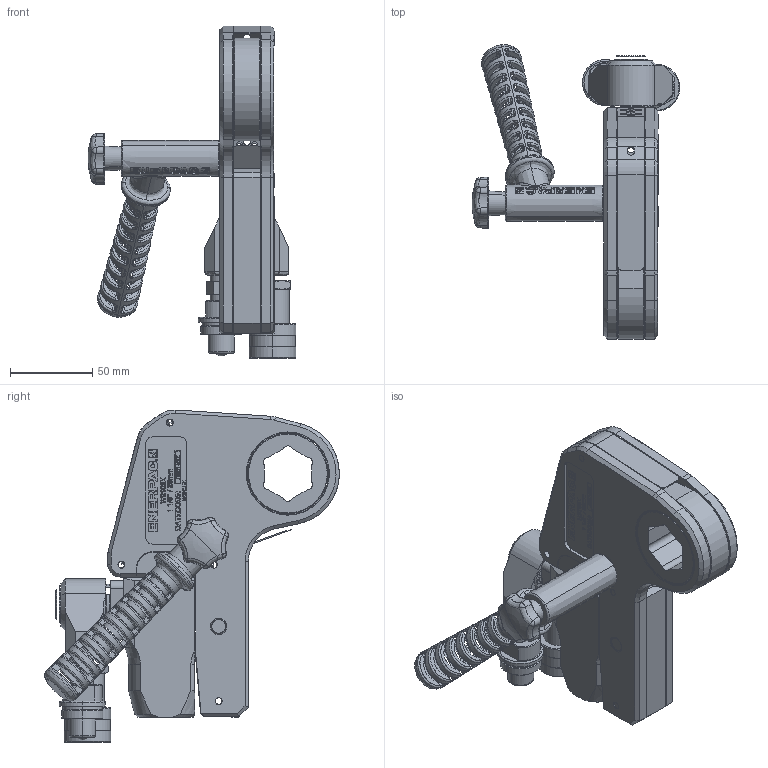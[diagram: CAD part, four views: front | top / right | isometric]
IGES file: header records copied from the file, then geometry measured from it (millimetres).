
Start section:  PTC IGES file: w2102x_with_w2000x.igs
Global section: file name: w2102x_with_w2000x.igs; native system: Creo Parametric by Parametric Technology Corporation; preprocessor: 2014200; author: david.cox; organization: Unknown; date: 20150331.121029; units: millimetre
Bounding box: 126.05 x 178.74 x 201.43 mm (x, y, z)
Surface area: 113382.2 mm2 (no closed solid volume)
Topology: 0 solids, 0 shells, 800 faces, 6211 edges, 6203 vertices
Faces by surface type: bspline 469, revolution 331
